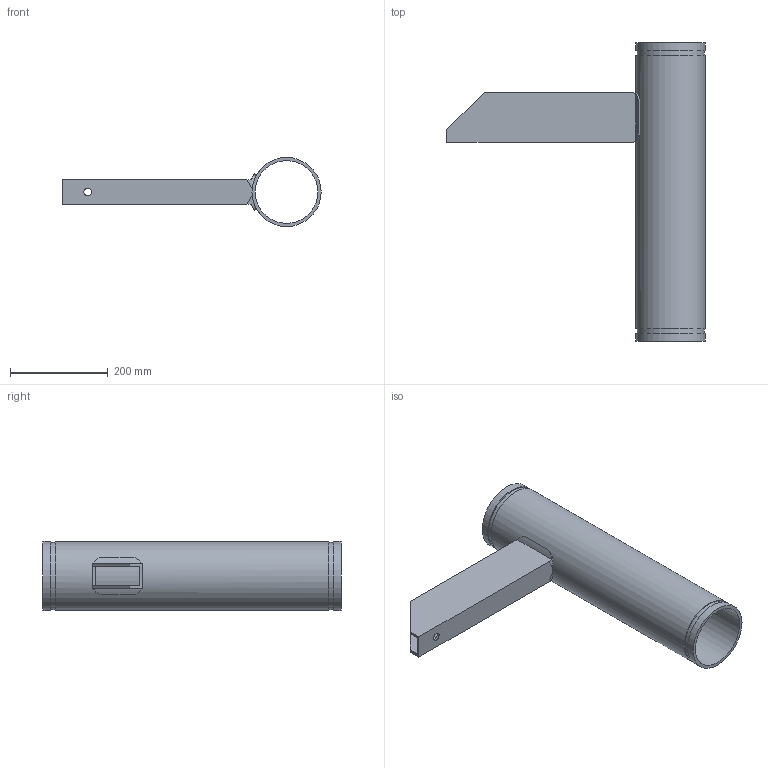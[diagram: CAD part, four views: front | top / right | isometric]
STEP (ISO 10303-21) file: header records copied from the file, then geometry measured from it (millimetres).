
FILE_DESCRIPTION(/* description */ ('VIC SS FLOOR MOUNTED RISER ANCHOR No A40S'),/* implementation_level */ '2;1');
FILE_NAME(/* name */ 'C:\Files for Export\A40 & A40S-STEP-SWX\STEP\Victaulic_SS-OGS_Riser Anchor_No A40S (OGS)\Victaulic_SS-OGS_Riser Anchor_No A40S (OGS)_5 (125).stp',/* time_stamp */ '2024-06-07T07:37:00+02:00',/* author */ ('kkamble'),/* organization */ ('Victaulic'),/* preprocessor_version */ 'ST-DEVELOPER v18.1',/* originating_system */ 'Autodesk Inventor 2020',/* authorisation */ '');
FILE_SCHEMA (('AUTOMOTIVE_DESIGN { 1 0 10303 214 3 1 1 }'));
Length unit declared in the file: inch
Products named in the file (1): A40S-05.0
Bounding box: 527.85 x 609.6 x 141.3 mm (x, y, z)
Volume: 2218438.6 mm3; surface area: 729041 mm2
Topology: 1 solids, 1 shells, 34 faces, 94 edges, 66 vertices
Faces by surface type: plane 20, cylinder 14
Full cylindrical faces by diameter (mm): 15.875 x1, 128.194 x1, 137.033 x2, 141.3 x3
Entity records: 1295 total; most frequent: CARTESIAN_POINT 307, DIRECTION 192, ORIENTED_EDGE 188, EDGE_CURVE 94, AXIS2_PLACEMENT_3D 71, VERTEX_POINT 66, LINE 50, VECTOR 50
